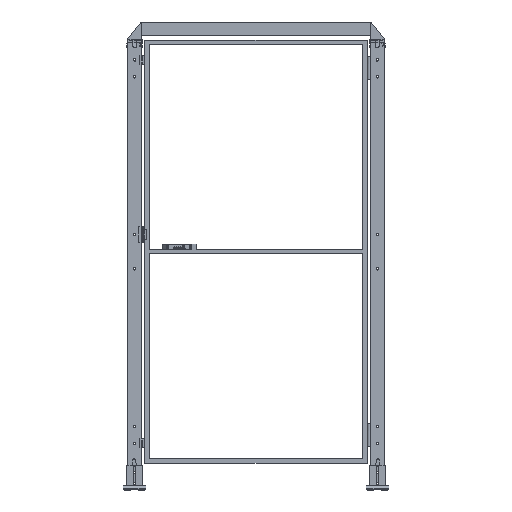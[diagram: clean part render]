
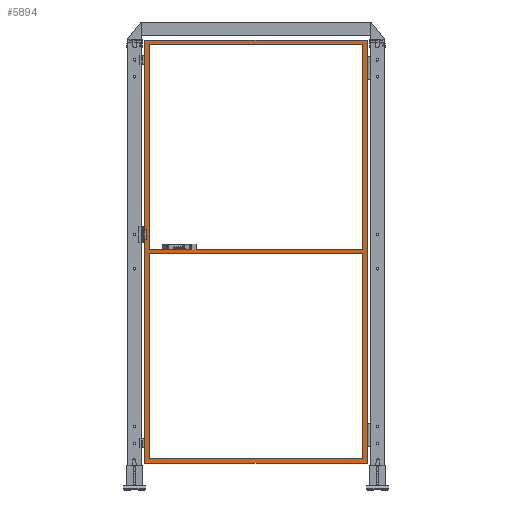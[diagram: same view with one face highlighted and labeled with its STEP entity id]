
A CAD part, top view. The second image highlights one B-rep face of the part: STEP entity #5894.
In plain terms, the highlighted planar face has unit normal (0, 0, 1).
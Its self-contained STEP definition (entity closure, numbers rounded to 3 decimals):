
#5894=ADVANCED_FACE('',(#12068,#12069,#12070),#12071,.F.);
#12068=FACE_BOUND('',#19807,.T.);
#12069=FACE_OUTER_BOUND('',#19808,.T.);
#12070=FACE_BOUND('',#19809,.T.);
#12071=PLANE('',#19810);
#19807=EDGE_LOOP('',(#37257,#37258,#37259,#37260));
#19808=EDGE_LOOP('',(#37261,#37262,#37263,#37264));
#19809=EDGE_LOOP('',(#37265,#37266,#37267,#37268));
#19810=AXIS2_PLACEMENT_3D('',#37269,#37270,#37271);
#37257=ORIENTED_EDGE('',*,*,#44399,.F.);
#37258=ORIENTED_EDGE('',*,*,#44405,.T.);
#37259=ORIENTED_EDGE('',*,*,#44427,.T.);
#37260=ORIENTED_EDGE('',*,*,#44432,.F.);
#37261=ORIENTED_EDGE('',*,*,#44443,.F.);
#37262=ORIENTED_EDGE('',*,*,#44437,.F.);
#37263=ORIENTED_EDGE('',*,*,#44407,.F.);
#37264=ORIENTED_EDGE('',*,*,#44441,.F.);
#37265=ORIENTED_EDGE('',*,*,#44429,.F.);
#37266=ORIENTED_EDGE('',*,*,#44424,.F.);
#37267=ORIENTED_EDGE('',*,*,#44435,.T.);
#37268=ORIENTED_EDGE('',*,*,#44444,.T.);
#37269=CARTESIAN_POINT('',(515.0,130.0,10.0));
#37270=DIRECTION('',(0.,0.0,-1.0));
#37271=DIRECTION('',(-1.0,0.0,0.));
#44399=EDGE_CURVE('',#54881,#54884,#54885,.T.);
#44405=EDGE_CURVE('',#54881,#54892,#54894,.T.);
#44407=EDGE_CURVE('',#54896,#54897,#54898,.T.);
#44424=EDGE_CURVE('',#54924,#54922,#54926,.T.);
#44427=EDGE_CURVE('',#54892,#54928,#54930,.T.);
#44429=EDGE_CURVE('',#54922,#54932,#54933,.T.);
#44432=EDGE_CURVE('',#54884,#54928,#54936,.T.);
#44435=EDGE_CURVE('',#54924,#54938,#54940,.T.);
#44437=EDGE_CURVE('',#54897,#54942,#54943,.T.);
#44441=EDGE_CURVE('',#54946,#54896,#54948,.T.);
#44443=EDGE_CURVE('',#54942,#54946,#54950,.T.);
#44444=EDGE_CURVE('',#54938,#54932,#54951,.T.);
#54881=VERTEX_POINT('',#70715);
#54884=VERTEX_POINT('',#70719);
#54885=LINE('',#70720,#70721);
#54892=VERTEX_POINT('',#70731);
#54894=LINE('',#70734,#70735);
#54896=VERTEX_POINT('',#70737);
#54897=VERTEX_POINT('',#70738);
#54898=LINE('',#70739,#70740);
#54922=VERTEX_POINT('',#70776);
#54924=VERTEX_POINT('',#70779);
#54926=LINE('',#70782,#70783);
#54928=VERTEX_POINT('',#70785);
#54930=LINE('',#70788,#70789);
#54932=VERTEX_POINT('',#70791);
#54933=LINE('',#70792,#70793);
#54936=LINE('',#70797,#70798);
#54938=VERTEX_POINT('',#70800);
#54940=LINE('',#70803,#70804);
#54942=VERTEX_POINT('',#70806);
#54943=LINE('',#70807,#70808);
#54946=VERTEX_POINT('',#70812);
#54948=LINE('',#70815,#70816);
#54950=LINE('',#70818,#70819);
#54951=LINE('',#70820,#70821);
#70715=CARTESIAN_POINT('',(995.0,2000.0,10.));
#70719=CARTESIAN_POINT('',(35.,2000.0,10.0));
#70720=CARTESIAN_POINT('',(515.0,2000.0,10.0));
#70721=VECTOR('',#78397,1.0);
#70731=CARTESIAN_POINT('',(995.0,1080.0,10.));
#70734=CARTESIAN_POINT('',(995.0,1070.0,10.));
#70735=VECTOR('',#78402,1.0);
#70737=CARTESIAN_POINT('',(15.0,120.0,10.0));
#70738=CARTESIAN_POINT('',(15.,2020.0,10.0));
#70739=CARTESIAN_POINT('',(15.0,130.0,10.0));
#70740=VECTOR('',#78403,1.0);
#70776=CARTESIAN_POINT('',(35.,1060.0,10.0));
#70779=CARTESIAN_POINT('',(995.0,1060.0,10.));
#70782=CARTESIAN_POINT('',(515.0,1060.0,10.0));
#70783=VECTOR('',#78418,1.0);
#70785=CARTESIAN_POINT('',(35.,1080.0,10.0));
#70788=CARTESIAN_POINT('',(515.0,1080.0,10.0));
#70789=VECTOR('',#78420,1.0);
#70791=CARTESIAN_POINT('',(35.0,140.0,10.0));
#70792=CARTESIAN_POINT('',(35.,1070.0,10.0));
#70793=VECTOR('',#78421,1.0);
#70797=CARTESIAN_POINT('',(35.,1070.0,10.0));
#70798=VECTOR('',#78423,1.0);
#70800=CARTESIAN_POINT('',(995.0,140.0,10.));
#70803=CARTESIAN_POINT('',(995.0,1070.0,10.));
#70804=VECTOR('',#78425,1.0);
#70806=CARTESIAN_POINT('',(1015.0,2020.0,10.));
#70807=CARTESIAN_POINT('',(25.,2020.0,10.0));
#70808=VECTOR('',#78426,1.0);
#70812=CARTESIAN_POINT('',(1015.0,120.0,10.));
#70815=CARTESIAN_POINT('',(515.0,120.0,10.0));
#70816=VECTOR('',#78429,1.0);
#70818=CARTESIAN_POINT('',(1015.0,1070.0,10.));
#70819=VECTOR('',#78430,1.0);
#70820=CARTESIAN_POINT('',(515.0,140.0,10.0));
#70821=VECTOR('',#78431,1.0);
#78397=DIRECTION('',(-1.0,0.0,0.));
#78402=DIRECTION('',(0.,-1.0,0.));
#78403=DIRECTION('',(0.0,1.0,0.0));
#78418=DIRECTION('',(-1.0,0.0,0.));
#78420=DIRECTION('',(-1.0,0.0,0.));
#78421=DIRECTION('',(0.,-1.0,0.));
#78423=DIRECTION('',(0.,-1.0,0.));
#78425=DIRECTION('',(0.,-1.0,0.));
#78426=DIRECTION('',(1.0,0.,0.));
#78429=DIRECTION('',(-1.0,0.0,0.));
#78430=DIRECTION('',(0.,-1.0,0.));
#78431=DIRECTION('',(-1.0,0.0,0.));
